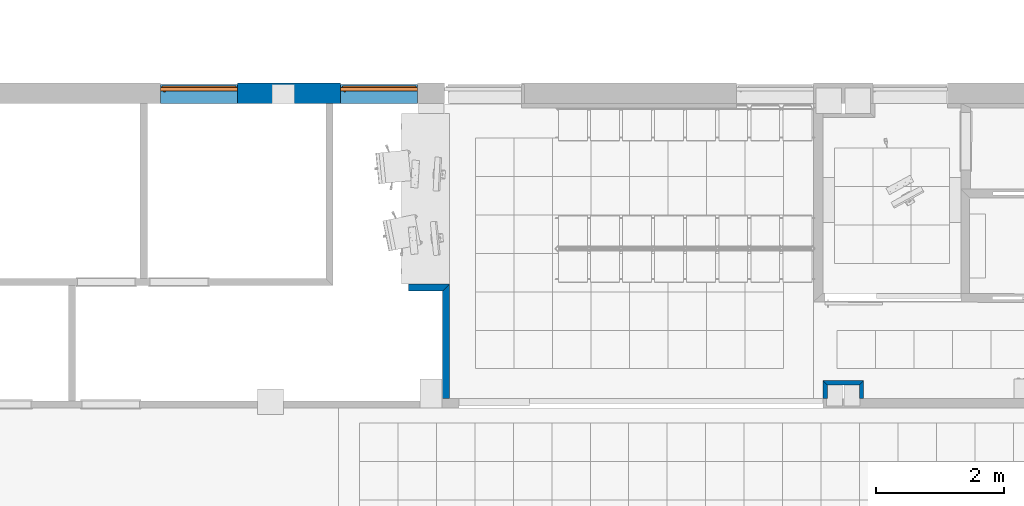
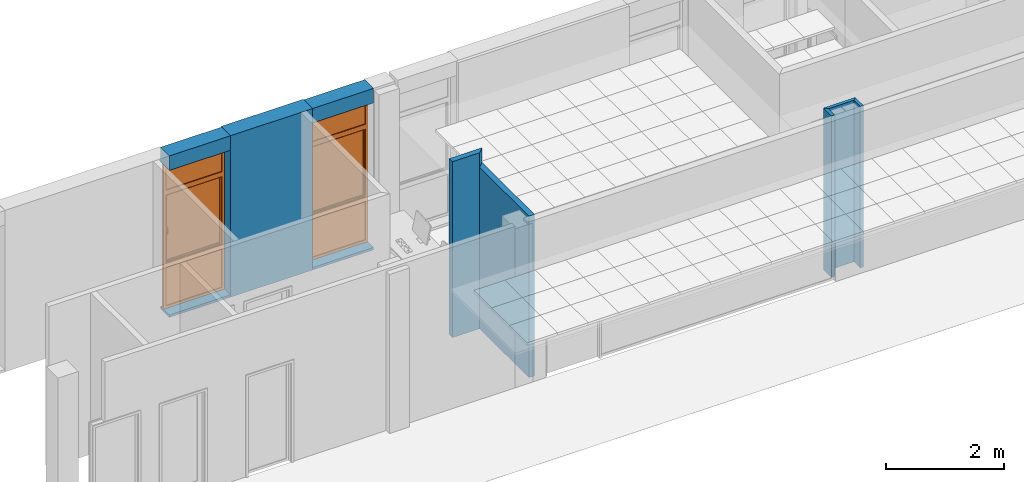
# One storey, part 25 of 68: 8 walls, 2 proxies, 2 openings.
"""IFC2X3 building model written with IfcOpenShell, lengths in millimetres."""

from ifc_helpers import new_model, entity, si_unit, converted_unit, derived_unit, money_unit, direction, frame, origin_with_axes, origin_2d_with_axis, place, context, subcontext, project, spatial, polyline, rectangle, outline, extrude, open_shell, faceted_brep, surface_model, source, transform, mapped, material, layer, layer_set, layer_usage, type_object, element, fill, save


model = new_model("IFC2X3")

# Units and contexts
model_context = context("Model", 3, precision=0.01, world=origin_with_axes(), true_north=direction((0.0, 1.0)))
body_context = subcontext(model_context, "Body", "Model", "MODEL_VIEW")
ifc_project = project(units=[si_unit("LENGTHUNIT", "METRE", prefix="MILLI"), si_unit("AREAUNIT", "SQUARE_METRE"), si_unit("VOLUMEUNIT", "CUBIC_METRE"), converted_unit("PLANEANGLEUNIT", "DEGREE", entity("IfcPlaneAngleMeasure", 0.0174532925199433), si_unit("PLANEANGLEUNIT", "RADIAN"), dimensions=[0, 0, 0, 0, 0, 0, 0]), money_unit("USD"), converted_unit("TIMEUNIT", "Year", entity("IfcTimeMeasure", 31557600.0), si_unit("TIMEUNIT", "SECOND"), dimensions=[0, 0, 1, 0, 0, 0, 0]), si_unit("MASSUNIT", "GRAM", prefix="KILO"), si_unit("THERMODYNAMICTEMPERATUREUNIT", "DEGREE_CELSIUS"), si_unit("LUMINOUSINTENSITYUNIT", "LUMEN"), si_unit("ENERGYUNIT", "JOULE", prefix="MEGA"), derived_unit("THERMALCONDUCTANCEUNIT", [(si_unit("POWERUNIT", "WATT"), 1), (si_unit("LENGTHUNIT", "METRE"), -1), (si_unit("THERMODYNAMICTEMPERATUREUNIT", "KELVIN"), -1)]), derived_unit("SPECIFICHEATCAPACITYUNIT", [(si_unit("ENERGYUNIT", "JOULE"), 1), (si_unit("MASSUNIT", "GRAM", prefix="KILO"), -1), (si_unit("THERMODYNAMICTEMPERATUREUNIT", "KELVIN"), -1)]), derived_unit("MASSDENSITYUNIT", [(si_unit("MASSUNIT", "GRAM", prefix="KILO"), 1), (si_unit("VOLUMEUNIT", "CUBIC_METRE"), -1)])], contexts=[model_context])

# Site, building, storey
site_placement = place(None, origin_with_axes())
site = spatial("IfcSite", under=ifc_project, at=site_placement, Name="Sitio", CompositionType="ELEMENT")
building_placement = place(site_placement, origin_with_axes())
building = spatial("IfcBuilding", under=site, at=building_placement, Name="Construcción", CompositionType="ELEMENT")
storey_placement = place(building_placement, origin_with_axes())
storey = spatial("IfcBuildingStorey", under=building, at=storey_placement, Name="PLANTA 1ª", CompositionType="ELEMENT", Elevation=0.0)

# Wall, opening, proxy
ifc_material_1 = material(Name="ARQ_AM246_Arrebossat_De_Guix")
ifc_layer_1 = layer(ifc_material_1, 20.0, ventilated="UNKNOWN")
ifc_material_2 = material(Name="ARQ_CE217_Gero")
ifc_layer_2 = layer(ifc_material_2, 110.0, ventilated="UNKNOWN")
ifc_material_3 = material(Name="ARQ_AI031_Aillament_Poliestireno expandido EPS")
ifc_layer_3 = layer(ifc_material_3, 100.0, ventilated="UNKNOWN")
ifc_material_4 = material(Name="ARQ_CE218_Ceramic")
ifc_layer_4 = layer(ifc_material_4, 50.0, ventilated="UNKNOWN")
ifc_layer_5 = layer(ifc_material_1, 20.0, ventilated="UNKNOWN")
ifc_layer_set_1 = layer_set([ifc_layer_1, ifc_layer_2, ifc_layer_3, ifc_layer_4, ifc_layer_5], Name="façana pati CR3 (ampit)")
ifc_layer_usage_1 = layer_usage(ifc_layer_set_1, "AXIS2", "POSITIVE", -300.0000000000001)
wall_type_1 = type_object("IfcWallType", Name="façana pati CR3 (ampit) 300", PredefinedType="NOTDEFINED")
wall_1_placement = place(storey_placement, frame((-19266.10900490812, -12338.97582371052, 0.0), z_axis=(0.0, 0.0, 1.0), x_axis=(-1.0, 0.0, 0.0)))
wall_1 = element("IfcWallStandardCase", 1, at=wall_1_placement, inside=storey, type_object=wall_type_1, material=ifc_layer_usage_1, Name="MS-201", context=body_context, shape_type="SweptSolid", body=[
    extrude(outline(polyline([(0.0, -300.0000000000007), (1194.999999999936, -300.0000000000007), (1194.999999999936, 0.0), (0.0, 0.0), (0.0, -300.0000000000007)])), origin_with_axes(), (0.0, 0.0, 1.0), 3350.0),
])
opening_1_placement = place(wall_1_placement, frame((594.9999999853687, 0.0, 50.0), z_axis=(0.0, 0.0, 1.0), x_axis=(1.0, 0.0, 0.0)))
opening_1 = element("IfcOpeningElement", 2, at=opening_1_placement, cuts=wall_1, Name="V - 008", context=body_context, shape_type="SweptSolid", body=[
    extrude(rectangle(XDim=1200.000000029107, YDim=3000.0, at=origin_2d_with_axis()), frame((0.0, -250.0, 1500.0), z_axis=(0.0, -1.0, 0.0), x_axis=(-1.0, 0.0, 0.0)), (0.0, 0.0, -1.0), 550.0),
    extrude(rectangle(XDim=1200.000000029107, YDim=3000.0, at=origin_2d_with_axis()), frame((0.0, -250.0, 1500.0), z_axis=(0.0, 1.0, 0.0), x_axis=(-1.0, 0.0, 0.0)), (0.0, 0.0, -1.0), 350.0000000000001),
])
building_element_proxy_type = type_object("IfcBuildingElementProxyType", Name="Ventana Vertical Multi-Faja 27", PredefinedType="NOTDEFINED")
shared_shape = source(origin_with_axes(), body_context, "Body", "SurfaceModel", [
    faceted_brep([(-575.0000000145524, 0.0, 925.0), (-550.0000000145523, 0.0, 925.0), (-550.0000000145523, 0.0, 850.0), (-550.0000000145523, 0.0, 50.00000000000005), (-600.0000000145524, 0.0, 50.00000000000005), (-600.0000000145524, 0.0, 2950.0), (-550.0000000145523, 0.0, 2950.0), (-550.0000000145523, 0.0, 2450.0), (-550.0000000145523, 0.0, 2375.0), (-575.0000000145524, 0.0, 2375.0), (-575.0000000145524, -25.00000000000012, 925.0), (-550.0000000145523, -25.00000000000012, 925.0), (-550.0000000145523, -25.00000000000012, 950.0000000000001), (-550.0000000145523, -50.00000000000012, 950.0000000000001), (-550.0000000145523, -50.00000000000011, 850.0), (-550.0000000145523, -50.00000000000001, 50.00000000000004), (-600.0000000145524, -50.00000000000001, 50.00000000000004), (-600.0000000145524, -50.00000000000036, 2950.0), (-550.0000000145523, -50.00000000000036, 2950.0), (-550.0000000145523, -50.0000000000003, 2450.0), (-550.0000000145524, -25.00000000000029, 2375.0), (-550.0000000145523, -50.00000000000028, 2350.0), (-550.0000000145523, -25.00000000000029, 2350.0), (-575.0000000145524, -25.00000000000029, 2375.0)], [[[0, 1, 2, 3, 4, 5, 6, 7, 8, 9]], [[0, 10, 11, 1]], [[11, 12, 13, 14, 2, 1]], [[3, 2, 14, 15]], [[4, 3, 15, 16]], [[5, 4, 16, 17]], [[6, 5, 17, 18]], [[7, 6, 18, 19]], [[20, 8, 7, 19, 21, 22]], [[20, 23, 9, 8]], [[9, 23, 10, 0]], [[22, 12, 11, 10, 23, 20]], [[22, 21, 13, 12]], [[17, 16, 15, 14, 13, 21, 19, 18]]]),
    faceted_brep([(575.0000000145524, 0.0, 925.0), (575.0000000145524, 0.0, 2375.0), (550.0000000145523, 0.0, 2375.0), (550.0000000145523, 0.0, 2450.0), (550.0000000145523, 0.0, 2950.0), (600.0000000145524, 0.0, 2950.0), (600.0000000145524, 0.0, 50.00000000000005), (550.0000000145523, 0.0, 50.00000000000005), (550.0000000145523, 0.0, 850.0), (550.0000000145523, 0.0, 925.0), (575.0000000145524, -25.00000000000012, 925.0), (575.0000000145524, -25.00000000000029, 2375.0), (550.0000000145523, -25.00000000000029, 2375.0), (550.0000000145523, -25.00000000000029, 2350.0), (550.0000000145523, -50.00000000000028, 2350.0), (550.0000000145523, -50.0000000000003, 2450.0), (550.0000000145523, -50.00000000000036, 2950.0), (600.0000000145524, -50.00000000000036, 2950.0), (600.0000000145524, -50.00000000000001, 50.00000000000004), (550.0000000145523, -50.00000000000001, 50.00000000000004), (550.0000000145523, -50.00000000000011, 850.0), (550.0000000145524, -25.00000000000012, 925.0), (550.0000000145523, -50.00000000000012, 950.0000000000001), (550.0000000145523, -25.00000000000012, 950.0000000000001)], [[[0, 1, 2, 3, 4, 5, 6, 7, 8, 9]], [[0, 10, 11, 1]], [[1, 11, 12, 2]], [[12, 13, 14, 15, 3, 2]], [[4, 3, 15, 16]], [[5, 4, 16, 17]], [[6, 5, 17, 18]], [[7, 6, 18, 19]], [[8, 7, 19, 20]], [[21, 9, 8, 20, 22, 23]], [[9, 21, 10, 0]], [[12, 11, 10, 21, 23, 13]], [[23, 22, 14, 13]], [[14, 22, 20, 19, 18, 17, 16, 15]]]),
    faceted_brep([(-550.0000000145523, -25.00000000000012, 950.0000000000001), (-550.0000000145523, -50.00000000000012, 950.0000000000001), (550.0000000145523, -50.00000000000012, 950.0000000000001), (550.0000000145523, -25.00000000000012, 950.0000000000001), (-550.0000000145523, -25.00000000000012, 925.0), (-550.0000000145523, 0.0, 925.0), (-550.0000000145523, 0.0, 850.0), (-550.0000000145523, -50.00000000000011, 850.0), (550.0000000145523, -50.00000000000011, 850.0), (550.0000000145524, -25.00000000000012, 925.0), (550.0000000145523, 0.0, 850.0), (550.0000000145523, 0.0, 925.0)], [[[0, 1, 2, 3]], [[4, 5, 6, 7, 1, 0]], [[1, 7, 8, 2]], [[9, 3, 2, 8, 10, 11]], [[9, 4, 0, 3]], [[5, 4, 9, 11]], [[11, 10, 6, 5]], [[6, 10, 8, 7]]]),
    faceted_brep([(-550.0000000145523, 0.0, 2375.0), (-550.0000000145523, 0.0, 2450.0), (550.0000000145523, 0.0, 2450.0), (550.0000000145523, 0.0, 2375.0), (-550.0000000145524, -25.00000000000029, 2375.0), (-550.0000000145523, -25.00000000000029, 2350.0), (-550.0000000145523, -50.00000000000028, 2350.0), (-550.0000000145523, -50.0000000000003, 2450.0), (550.0000000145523, -50.0000000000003, 2450.0), (550.0000000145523, -25.00000000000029, 2375.0), (550.0000000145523, -50.00000000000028, 2350.0), (550.0000000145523, -25.00000000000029, 2350.0)], [[[0, 1, 2, 3]], [[4, 5, 6, 7, 1, 0]], [[2, 1, 7, 8]], [[9, 3, 2, 8, 10, 11]], [[9, 4, 0, 3]], [[11, 5, 4, 9]], [[11, 10, 6, 5]], [[7, 6, 10, 8]]]),
    faceted_brep([(550.0000000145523, -50.00000000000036, 2950.0), (550.0000000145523, 0.0, 2950.0), (600.0000000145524, 0.0, 2950.0), (600.0000000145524, -50.00000000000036, 2950.0), (-550.0000000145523, -50.00000000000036, 2950.0), (-550.0000000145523, 0.0, 2950.0), (-600.0000000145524, 0.0, 2950.0), (-600.0000000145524, 0.0, 3000.0), (600.0000000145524, 0.0, 3000.0), (600.0000000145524, -50.00000000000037, 3000.0), (-600.0000000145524, -50.00000000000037, 3000.0), (-600.0000000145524, -50.00000000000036, 2950.0)], [[[0, 1, 2, 3]], [[4, 5, 1, 0]], [[1, 5, 6, 7, 8, 2]], [[3, 2, 8, 9]], [[0, 3, 9, 10, 11, 4]], [[11, 6, 5, 4]], [[10, 7, 6, 11]], [[9, 8, 7, 10]]]),
    faceted_brep([(-550.0000000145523, -50.00000000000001, 50.0), (-550.0000000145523, 0.0, 50.00000000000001), (-600.0000000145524, 0.0, 50.00000000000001), (-600.0000000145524, -50.00000000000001, 50.0), (550.0000000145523, -50.00000000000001, 50.0), (550.0000000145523, 0.0, 50.00000000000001), (600.0000000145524, 0.0, 50.00000000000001), (600.0000000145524, 0.0, 0.0), (-600.0000000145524, 0.0, 0.0), (-600.0000000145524, -50.0, 0.0), (600.0000000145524, -50.0, 0.0), (600.0000000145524, -50.00000000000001, 50.0)], [[[0, 1, 2, 3]], [[4, 5, 1, 0]], [[1, 5, 6, 7, 8, 2]], [[3, 2, 8, 9]], [[0, 3, 9, 10, 11, 4]], [[11, 6, 5, 4]], [[10, 7, 6, 11]], [[9, 8, 7, 10]]]),
    surface_model("IfcShellBasedSurfaceModel", [(-550.0000000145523, -35.0, 49.99999999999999), (550.0000000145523, -35.0, 49.99999999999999), (550.0000000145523, -35.0000000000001, 850.0), (-550.0000000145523, -35.0000000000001, 850.0)], [open_shell([[[0, 1, 2, 3]]])]),
    surface_model("IfcShellBasedSurfaceModel", [(-550.0000000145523, -15.0, 49.99999999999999), (-550.0000000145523, -15.0000000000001, 850.0), (550.0000000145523, -15.0000000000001, 850.0), (550.0000000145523, -15.0, 49.99999999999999)], [open_shell([[[0, 1, 2, 3]]])]),
    faceted_brep([(-521.5000000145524, -25.00000000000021, 1677.0), (-522.839745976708, -25.00000000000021, 1682.0), (-522.839745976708, -37.00000000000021, 1682.0), (-521.5000000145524, -37.00000000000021, 1677.0), (-521.5000000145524, -25.0000000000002, 1623.0), (-522.839745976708, -25.0000000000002, 1618.0), (-526.5000000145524, -25.0000000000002, 1614.339745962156), (-531.5000000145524, -25.0000000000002, 1613.0), (-543.5000000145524, -25.0000000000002, 1613.0), (-548.5000000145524, -25.0000000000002, 1614.339745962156), (-552.1602540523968, -25.0000000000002, 1618.0), (-553.5000000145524, -25.0000000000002, 1623.0), (-553.5000000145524, -25.00000000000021, 1677.0), (-552.1602540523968, -25.00000000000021, 1682.0), (-548.5000000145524, -25.00000000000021, 1685.660254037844), (-543.5000000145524, -25.00000000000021, 1687.0), (-531.5000000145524, -25.00000000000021, 1687.0), (-526.5000000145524, -25.00000000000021, 1685.660254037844), (-526.5000000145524, -37.00000000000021, 1685.660254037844), (-531.5000000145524, -37.00000000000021, 1687.0), (-543.5000000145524, -37.00000000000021, 1687.0), (-548.5000000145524, -37.00000000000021, 1685.660254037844), (-552.1602540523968, -37.00000000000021, 1682.0), (-553.5000000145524, -37.00000000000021, 1677.0), (-553.5000000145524, -37.0000000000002, 1623.0), (-552.1602540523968, -37.0000000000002, 1618.0), (-548.5000000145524, -37.0000000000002, 1614.339745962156), (-543.5000000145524, -37.0000000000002, 1613.0), (-531.5000000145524, -37.0000000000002, 1613.0), (-526.5000000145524, -37.0000000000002, 1614.339745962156), (-522.839745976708, -37.0000000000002, 1618.0), (-521.5000000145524, -37.0000000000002, 1623.0)], [[[0, 1, 2, 3]], [[0, 4, 5, 6, 7, 8, 9, 10, 11, 12, 13, 14, 15, 16, 17, 1]], [[1, 17, 18, 2]], [[3, 2, 18, 19, 20, 21, 22, 23, 24, 25, 26, 27, 28, 29, 30, 31]], [[4, 0, 3, 31]], [[5, 4, 31, 30]], [[6, 5, 30, 29]], [[7, 6, 29, 28]], [[8, 7, 28, 27]], [[9, 8, 27, 26]], [[10, 9, 26, 25]], [[11, 10, 25, 24]], [[12, 11, 24, 23]], [[13, 12, 23, 22]], [[14, 13, 22, 21]], [[15, 14, 21, 20]], [[16, 15, 20, 19]], [[17, 16, 19, 18]]]),
    faceted_brep([(-537.5000000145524, -37.0000000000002, 1663.5), (-544.2500000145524, -37.0000000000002, 1661.69134295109), (-544.2500000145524, -61.00000000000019, 1661.69134295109), (-537.5000000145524, -61.00000000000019, 1663.5), (-530.7500000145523, -37.0000000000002, 1661.69134295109), (-525.8086570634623, -37.0000000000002, 1656.75), (-524.0000000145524, -37.0000000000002, 1650.0), (-525.8086570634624, -37.0000000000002, 1643.25), (-530.7500000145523, -37.0000000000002, 1638.30865704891), (-537.5000000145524, -37.0000000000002, 1636.5), (-544.2500000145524, -37.0000000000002, 1638.30865704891), (-549.1913429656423, -37.0000000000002, 1643.25), (-551.0000000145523, -37.0000000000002, 1650.0), (-549.1913429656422, -37.0000000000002, 1656.75), (-549.1913429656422, -61.00000000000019, 1656.75), (-551.0000000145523, -61.00000000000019, 1650.0), (-549.1913429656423, -61.00000000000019, 1643.25), (-544.2500000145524, -61.00000000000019, 1638.30865704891), (-537.5000000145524, -61.00000000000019, 1636.5), (-530.7500000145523, -61.00000000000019, 1638.30865704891), (-525.8086570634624, -61.00000000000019, 1643.25), (-524.0000000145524, -61.00000000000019, 1650.0), (-525.8086570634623, -61.00000000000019, 1656.75), (-530.7500000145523, -61.00000000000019, 1661.69134295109)], [[[0, 1, 2, 3]], [[0, 4, 5, 6, 7, 8, 9, 10, 11, 12, 13, 1]], [[1, 13, 14, 2]], [[3, 2, 14, 15, 16, 17, 18, 19, 20, 21, 22, 23]], [[4, 0, 3, 23]], [[5, 4, 23, 22]], [[6, 5, 22, 21]], [[7, 6, 21, 20]], [[8, 7, 20, 19]], [[9, 8, 19, 18]], [[10, 9, 18, 17]], [[11, 10, 17, 16]], [[12, 11, 16, 15]], [[13, 12, 15, 14]]]),
    faceted_brep([(-526.0000000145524, -61.00000000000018, 1543.0), (-537.5000000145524, -61.00000000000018, 1540.0), (-549.0000000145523, -61.00000000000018, 1543.0), (-551.0000000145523, -61.00000000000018, 1546.0), (-551.0000000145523, -61.00000000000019, 1650.0), (-549.1913429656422, -61.00000000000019, 1656.75), (-544.2500000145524, -61.00000000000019, 1661.69134295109), (-537.5000000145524, -61.00000000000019, 1663.5), (-530.7500000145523, -61.00000000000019, 1661.69134295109), (-525.8086570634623, -61.00000000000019, 1656.75), (-524.0000000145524, -61.00000000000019, 1650.0), (-524.0000000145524, -61.00000000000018, 1546.0), (-525.9999999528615, -69.00000000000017, 1543.000000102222), (-537.4999999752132, -69.00000000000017, 1539.999999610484), (-548.9999999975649, -69.00000000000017, 1543.000000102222), (-551.0000003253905, -69.00000000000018, 1545.999999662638), (-551.0000003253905, -69.0000000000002, 1649.99999994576), (-549.1913430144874, -69.0000000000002, 1656.749999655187), (-544.2499996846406, -69.0000000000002, 1661.691342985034), (-537.4999999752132, -69.0000000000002, 1663.500000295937), (-530.7500002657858, -69.0000000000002, 1661.691342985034), (-525.808656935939, -69.0000000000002, 1656.749999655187), (-523.9999996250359, -69.0000000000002, 1649.99999994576), (-523.9999996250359, -69.00000000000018, 1545.999999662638), (-527.8625374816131, -71.99999956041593, 1545.61451963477), (-537.4999999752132, -71.99999956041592, 1543.100398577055), (-547.1374624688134, -71.99999956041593, 1545.61451963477), (-548.0000007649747, -71.99999956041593, 1546.908326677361), (-548.0000007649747, -71.99999956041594, 1649.605042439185), (-546.5016170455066, -71.99999956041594, 1655.197085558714), (-542.6970855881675, -71.99999956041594, 1659.001617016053), (-537.4999999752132, -71.99999956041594, 1660.394172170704), (-532.302914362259, -71.99999956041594, 1659.001617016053), (-528.4983829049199, -71.99999956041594, 1655.197085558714), (-526.9999991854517, -71.99999956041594, 1649.605042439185), (-526.9999991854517, -71.99999956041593, 1546.908326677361)], [[[0, 1, 2, 3, 4, 5, 6, 7, 8, 9, 10, 11]], [[1, 0, 12, 13]], [[2, 1, 13, 14]], [[3, 2, 14, 15]], [[4, 3, 15, 16]], [[5, 4, 16, 17]], [[6, 5, 17, 18]], [[7, 6, 18, 19]], [[8, 7, 19, 20]], [[9, 8, 20, 21]], [[10, 9, 21, 22]], [[11, 10, 22, 23]], [[0, 11, 23, 12]], [[13, 12, 24, 25]], [[14, 13, 25, 26]], [[15, 14, 26, 27]], [[16, 15, 27, 28]], [[17, 16, 28, 29]], [[18, 17, 29, 30]], [[19, 18, 30, 31]], [[20, 19, 31, 32]], [[21, 20, 32, 33]], [[22, 21, 33, 34]], [[23, 22, 34, 35]], [[12, 23, 35, 24]], [[26, 25, 24, 35, 34, 33, 32, 31, 30, 29, 28, 27]]]),
    faceted_brep([(-525.0000000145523, -25.00000000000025, 2325.0), (-525.0000000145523, 24.99999999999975, 2325.0), (-575.0000000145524, 24.99999999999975, 2325.0), (-575.0000000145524, -25.00000000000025, 2325.0), (-525.0000000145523, -25.00000000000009, 975.0000000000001), (-525.0000000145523, 24.99999999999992, 975.0000000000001), (-575.0000000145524, 24.99999999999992, 975.0000000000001), (-575.0000000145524, -25.00000000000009, 975.0000000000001)], [[[0, 1, 2, 3]], [[4, 5, 1, 0]], [[1, 5, 6, 2]], [[3, 2, 6, 7]], [[0, 3, 7, 4]], [[7, 6, 5, 4]]]),
    faceted_brep([(525.0000000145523, -25.00000000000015, 975.0000000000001), (525.0000000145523, 24.99999999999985, 975.0000000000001), (575.0000000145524, 24.99999999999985, 975.0000000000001), (575.0000000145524, -25.00000000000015, 975.0000000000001), (525.0000000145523, -25.00000000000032, 2325.0), (525.0000000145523, 24.99999999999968, 2325.0), (575.0000000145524, 24.99999999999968, 2325.0), (575.0000000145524, -25.00000000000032, 2325.0)], [[[0, 1, 2, 3]], [[4, 5, 1, 0]], [[1, 5, 6, 2]], [[3, 2, 6, 7]], [[0, 3, 7, 4]], [[7, 6, 5, 4]]]),
    faceted_brep([(575.0000000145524, -25.00000000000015, 925.0), (575.0000000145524, 24.99999999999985, 925.0), (575.0000000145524, 24.99999999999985, 975.0000000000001), (575.0000000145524, -25.00000000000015, 975.0000000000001), (-575.0000000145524, -25.00000000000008, 925.0), (-575.0000000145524, 24.99999999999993, 925.0), (-575.0000000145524, 24.99999999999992, 975.0000000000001), (-525.0000000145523, 24.99999999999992, 975.0000000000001), (525.0000000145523, 24.99999999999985, 975.0000000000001), (525.0000000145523, -25.00000000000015, 975.0000000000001), (-525.0000000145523, -25.00000000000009, 975.0000000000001), (-575.0000000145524, -25.00000000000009, 975.0000000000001)], [[[0, 1, 2, 3]], [[4, 5, 1, 0]], [[1, 5, 6, 7, 8, 2]], [[3, 2, 8, 9]], [[0, 3, 9, 10, 11, 4]], [[11, 6, 5, 4]], [[10, 7, 6, 11]], [[9, 8, 7, 10]]]),
    faceted_brep([(-575.0000000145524, -25.00000000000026, 2375.0), (-575.0000000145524, 24.99999999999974, 2375.0), (-575.0000000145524, 24.99999999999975, 2325.0), (-575.0000000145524, -25.00000000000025, 2325.0), (575.0000000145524, -25.00000000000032, 2375.0), (575.0000000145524, 24.99999999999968, 2375.0), (575.0000000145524, 24.99999999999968, 2325.0), (525.0000000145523, 24.99999999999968, 2325.0), (-525.0000000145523, 24.99999999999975, 2325.0), (-525.0000000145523, -25.00000000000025, 2325.0), (525.0000000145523, -25.00000000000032, 2325.0), (575.0000000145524, -25.00000000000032, 2325.0)], [[[0, 1, 2, 3]], [[4, 5, 1, 0]], [[1, 5, 6, 7, 8, 2]], [[3, 2, 8, 9]], [[0, 3, 9, 10, 11, 4]], [[11, 6, 5, 4]], [[10, 7, 6, 11]], [[9, 8, 7, 10]]]),
    surface_model("IfcShellBasedSurfaceModel", [(-525.0000000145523, -10.00000000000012, 975.0000000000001), (525.0000000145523, -10.00000000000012, 975.0000000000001), (525.0000000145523, -10.00000000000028, 2325.0), (-525.0000000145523, -10.00000000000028, 2325.0)], [open_shell([[[0, 1, 2, 3]]])]),
    surface_model("IfcShellBasedSurfaceModel", [(-525.0000000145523, 9.999999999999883, 975.0000000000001), (-525.0000000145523, 9.99999999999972, 2325.0), (525.0000000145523, 9.99999999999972, 2325.0), (525.0000000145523, 9.999999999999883, 975.0000000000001)], [open_shell([[[0, 1, 2, 3]]])]),
    surface_model("IfcShellBasedSurfaceModel", [(-550.0000000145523, -35.0000000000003, 2450.0), (550.0000000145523, -35.0000000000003, 2450.0), (550.0000000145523, -35.00000000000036, 2950.0), (-550.0000000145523, -35.00000000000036, 2950.0)], [open_shell([[[0, 1, 2, 3]]])]),
    surface_model("IfcShellBasedSurfaceModel", [(-550.0000000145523, -15.0000000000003, 2450.0), (-550.0000000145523, -15.00000000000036, 2950.0), (550.0000000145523, -15.00000000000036, 2950.0), (550.0000000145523, -15.0000000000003, 2450.0)], [open_shell([[[0, 1, 2, 3]]])]),
])
proxy_1_placement = place(opening_1_placement, frame((600.0000000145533, 0.0, 0.0), z_axis=(0.0, 0.0, 1.0), x_axis=(-1.0, 0.0, 0.0)))
proxy_1 = element("IfcBuildingElementProxy", 3, at=proxy_1_placement, inside=storey, type_object=building_element_proxy_type, Name="V - 008", context=body_context, shape_type="MappedRepresentation", body=[
    mapped(shared_shape, transform((600.0000000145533, 250.0, 0.0))),
])
fill(opening_1, proxy_1)

ifc_layer_usage_2 = layer_usage(ifc_layer_set_1, "AXIS2", "POSITIVE", -300.0000000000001)
wall_2_placement = place(storey_placement, frame((-22071.10900487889, -12338.97582371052, 0.0), z_axis=(0.0, 0.0, 1.0), x_axis=(-1.0, 0.0, 0.0)))
wall_2 = element("IfcWallStandardCase", 4, at=wall_2_placement, inside=storey, type_object=wall_type_1, material=ifc_layer_usage_2, Name="MS-201", context=body_context, shape_type="SweptSolid", body=[
    extrude(outline(polyline([(0.0, -300.0000000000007), (1200.000000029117, -300.0000000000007), (1200.000000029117, 0.0), (0.0, 0.0), (0.0, -300.0000000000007)])), origin_with_axes(), (0.0, 0.0, 1.0), 3350.0),
])
opening_2_placement = place(wall_2_placement, frame((600.0000000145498, 0.0, 50.0), z_axis=(0.0, 0.0, 1.0), x_axis=(1.0, 0.0, 0.0)))
opening_2 = element("IfcOpeningElement", 5, at=opening_2_placement, cuts=wall_2, Name="V - 008", context=body_context, shape_type="SweptSolid", body=[
    extrude(rectangle(XDim=1200.000000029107, YDim=3000.0, at=origin_2d_with_axis()), frame((0.0, -250.0, 1500.0), z_axis=(0.0, -1.0, 0.0), x_axis=(-1.0, 0.0, 0.0)), (0.0, 0.0, -1.0), 550.0),
    extrude(rectangle(XDim=1200.000000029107, YDim=3000.0, at=origin_2d_with_axis()), frame((0.0, -250.0, 1500.0), z_axis=(0.0, 1.0, 0.0), x_axis=(-1.0, 0.0, 0.0)), (0.0, 0.0, -1.0), 350.0000000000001),
])
proxy_2_placement = place(opening_2_placement, frame((600.0000000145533, 0.0, 0.0), z_axis=(0.0, 0.0, 1.0), x_axis=(-1.0, 0.0, 0.0)))
proxy_2 = element("IfcBuildingElementProxy", 6, at=proxy_2_placement, inside=storey, type_object=building_element_proxy_type, Name="V - 008", context=body_context, shape_type="MappedRepresentation", body=[
    mapped(shared_shape, transform((600.0000000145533, 250.0, 0.0))),
])
fill(opening_2, proxy_2)

# Walls
ifc_layer_6 = layer(ifc_material_2, 150.0, ventilated="UNKNOWN")
ifc_layer_7 = layer(ifc_material_3, 100.0, ventilated="UNKNOWN")
ifc_layer_8 = layer(ifc_material_4, 50.0, ventilated="UNKNOWN")
ifc_layer_9 = layer(ifc_material_1, 20.0, ventilated="UNKNOWN")
ifc_layer_set_2 = layer_set([ifc_layer_6, ifc_layer_7, ifc_layer_8, ifc_layer_9], Name="façana pati CR3")
ifc_layer_usage_3 = layer_usage(ifc_layer_set_2, "AXIS2", "POSITIVE", -320.0)
wall_type_2 = type_object("IfcWallType", Name="façana pati CR3 320", PredefinedType="NOTDEFINED")
wall_3_placement = place(storey_placement, frame((-20461.10900490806, -12338.97582371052, 0.0), z_axis=(0.0, 0.0, 1.0), x_axis=(-1.0, 0.0, 0.0)))
element("IfcWallStandardCase", 7, at=wall_3_placement, inside=storey, type_object=wall_type_2, material=ifc_layer_usage_3, Name="MS-201", context=body_context, shape_type="SweptSolid", body=[
    extrude(outline(polyline([(0.0, -320.0000000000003), (1609.999999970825, -320.0000000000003), (1609.999999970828, 0.0), (0.0, 0.0), (0.0, -320.0000000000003)])), origin_with_axes(), (0.0, 0.0, 1.0), 3350.0),
])
ifc_material_5 = material(Name="ARQ_FU093_Panellat_HPL")
ifc_layer_10 = layer(ifc_material_5, 6.0, ventilated="UNKNOWN")
ifc_material_6 = material(Name="ARQ_EN271_Camara_Aire")
ifc_layer_11 = layer(ifc_material_6, 6.0, ventilated="UNKNOWN")
ifc_material_7 = material(Name="Panel de Yeso Laminado")
ifc_layer_12 = layer(ifc_material_7, 13.0, ventilated="UNKNOWN")
ifc_material_8 = material(Name="ARQ_AI033_Aillament_Llana_De_Roca")
ifc_layer_13 = layer(ifc_material_8, 40.0, ventilated="UNKNOWN")
ifc_layer_set_3 = layer_set([ifc_layer_10, ifc_layer_11, ifc_layer_12, ifc_layer_13], Name="Pladur Tras 40 / 1N +HPL")
ifc_layer_usage_4 = layer_usage(ifc_layer_set_3, "AXIS2", "NEGATIVE", 0.0)
wall_type_3 = type_object("IfcWallType", Name="Pladur Tras 40 / 1N +HPL 65", PredefinedType="NOTDEFINED")
wall_4_placement = place(storey_placement, frame((-12936.59658573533, -17083.97582371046, 0.0), z_axis=(0.0, 0.0, 1.0), x_axis=(0.0, 1.0, 0.0)))
element("IfcWallStandardCase", 8, at=wall_4_placement, inside=storey, type_object=wall_type_3, material=ifc_layer_usage_4, Name="MS-214", context=body_context, shape_type="SweptSolid", body=[
    extrude(outline(polyline([(146.0000000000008, -64.9999999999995), (358.0000005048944, -64.9999999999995), (423.000000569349, 0.0), (146.0000000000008, 0.0), (146.0000000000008, -64.9999999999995)])), origin_with_axes(), (0.0, 0.0, 1.0), 3350.0),
])
ifc_layer_usage_5 = layer_usage(ifc_layer_set_3, "AXIS2", "NEGATIVE", 0.0)
wall_5_placement = place(storey_placement, frame((-12936.59658573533, -16660.97582314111, 0.0), z_axis=(0.0, 0.0, 1.0), x_axis=(1.0, -9.915868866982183e-10, 0.0)))
element("IfcWallStandardCase", 9, at=wall_5_placement, inside=storey, type_object=wall_type_3, material=ifc_layer_usage_5, Name="MS-215", context=body_context, shape_type="SweptSolid", body=[
    extrude(outline(polyline([(65.00000006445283, -65.00000000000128), (562.4047779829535, -65.00000000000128), (627.4047779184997, 0.0), (0.0, 0.0), (65.00000006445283, -65.00000000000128)])), origin_with_axes(), (0.0, 0.0, 1.0), 3350.0),
])
ifc_layer_usage_6 = layer_usage(ifc_layer_set_3, "AXIS2", "NEGATIVE", 0.0)
wall_6_placement = place(storey_placement, frame((-12309.19180781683, -16660.97582376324, 0.0), z_axis=(0.0, 0.0, 1.0), x_axis=(0.0, -1.0, 0.0)))
element("IfcWallStandardCase", 10, at=wall_6_placement, inside=storey, type_object=wall_type_3, material=ifc_layer_usage_6, Name="MS-216", context=body_context, shape_type="SweptSolid", body=[
    extrude(outline(polyline([(64.99999993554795, -64.9999999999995), (276.9999999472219, -64.9999999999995), (276.9999999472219, 0.0), (0.0, 0.0), (64.99999993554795, -64.9999999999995)])), origin_with_axes(), (0.0, 0.0, 1.0), 3350.0),
])
ifc_layer_14 = layer(ifc_material_1, 10.0, ventilated="UNKNOWN")
ifc_layer_15 = layer(ifc_material_2, 90.0, ventilated="UNKNOWN")
ifc_layer_16 = layer(ifc_material_1, 10.0, ventilated="UNKNOWN")
ifc_layer_set_4 = layer_set([ifc_layer_14, ifc_layer_15, ifc_layer_16], Name="CR Enva Totxana")
ifc_layer_usage_7 = layer_usage(ifc_layer_set_4, "AXIS2", "POSITIVE", 0.0)
wall_type_4 = type_object("IfcWallType", Name="CR Enva Totxana 110", PredefinedType="NOTDEFINED")
wall_7_placement = place(storey_placement, frame((-18763.60900490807, -15153.97582371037, 0.0), z_axis=(0.0, 0.0, 1.0), x_axis=(-1.0, 0.0, 0.0)))
element("IfcWallStandardCase", 11, at=wall_7_placement, inside=storey, type_object=wall_type_4, material=ifc_layer_usage_7, Name="MS-201", context=body_context, shape_type="SweptSolid", body=[
    extrude(outline(polyline([(0.0, 0.0), (642.8223508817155, 0.0), (642.8223508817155, 109.9999999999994), (109.9999999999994, 109.9999999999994), (0.0, 0.0)])), origin_with_axes(), (0.0, 0.0, 1.0), 3650.0),
])
ifc_layer_usage_8 = layer_usage(ifc_layer_set_4, "AXIS2", "POSITIVE", 0.0)
wall_8_placement = place(storey_placement, frame((-18763.60900490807, -17083.97582371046, 0.0), z_axis=(0.0, 0.0, 1.0), x_axis=(0.0, 1.0, 0.0)))
element("IfcWallStandardCase", 12, at=wall_8_placement, inside=storey, type_object=wall_type_4, material=ifc_layer_usage_8, Name="MS-201", context=body_context, shape_type="SweptSolid", body=[
    extrude(outline(polyline([(146.0000000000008, 0.0), (1930.000000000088, 0.0), (1820.000000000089, 109.9999999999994), (146.0000000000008, 109.9999999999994), (146.0000000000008, 0.0)])), origin_with_axes(), (0.0, 0.0, 1.0), 3350.0),
])

save(model, "model.ifc")
